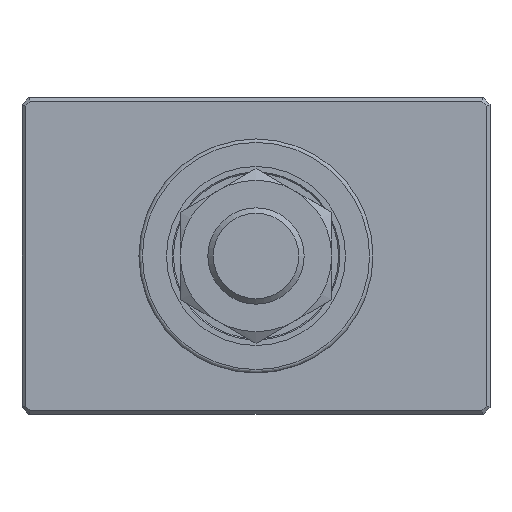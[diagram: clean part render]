
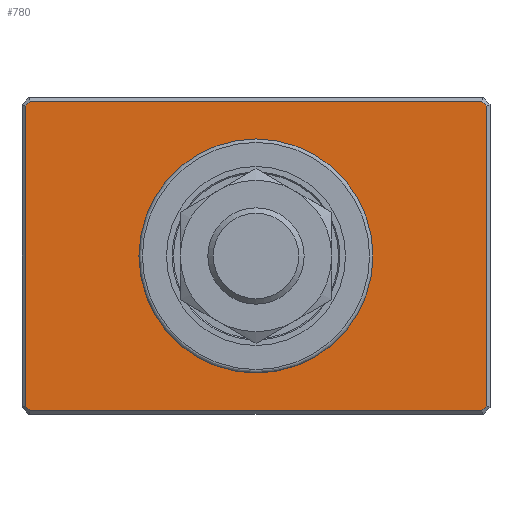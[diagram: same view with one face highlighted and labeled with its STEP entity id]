
A CAD part, front view. The second image highlights one B-rep face of the part: STEP entity #780.
In plain terms, the highlighted planar face has unit normal (0, -1, 0).
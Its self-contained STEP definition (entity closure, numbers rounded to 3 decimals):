
#532=CARTESIAN_POINT('',(-33.5,-21.,-21.793));
#533=VERTEX_POINT('',#532);
#540=CARTESIAN_POINT('',(-33.5,-21.,21.793));
#541=VERTEX_POINT('',#540);
#542=CARTESIAN_POINT('',(-33.5,-21.,-21.793));
#543=DIRECTION('',(0.0,0.0,1.0));
#544=VECTOR('',#543,43.586);
#545=LINE('',#542,#544);
#546=EDGE_CURVE('',#533,#541,#545,.T.);
#562=CARTESIAN_POINT('',(-32.793,-21.,-22.5));
#563=VERTEX_POINT('',#562);
#564=CARTESIAN_POINT('',(-32.793,-21.,-22.5));
#565=DIRECTION('',(-0.707,0.0,0.707));
#566=VECTOR('',#565,1.);
#567=LINE('',#564,#566);
#568=EDGE_CURVE('',#563,#533,#567,.T.);
#593=CARTESIAN_POINT('',(32.793,-21.,-22.5));
#594=VERTEX_POINT('',#593);
#595=CARTESIAN_POINT('',(32.793,-21.,-22.5));
#596=DIRECTION('',(-1.0,0.0,0.0));
#597=VECTOR('',#596,65.586);
#598=LINE('',#595,#597);
#599=EDGE_CURVE('',#594,#563,#598,.T.);
#624=CARTESIAN_POINT('',(32.793,-21.,22.5));
#625=VERTEX_POINT('',#624);
#626=CARTESIAN_POINT('',(33.5,-21.,21.793));
#627=VERTEX_POINT('',#626);
#628=CARTESIAN_POINT('',(32.793,-21.,22.5));
#629=DIRECTION('',(0.707,0.0,-0.707));
#630=VECTOR('',#629,1.);
#631=LINE('',#628,#630);
#632=EDGE_CURVE('',#625,#627,#631,.T.);
#657=CARTESIAN_POINT('',(33.5,-21.,-21.793));
#658=VERTEX_POINT('',#657);
#659=CARTESIAN_POINT('',(33.5,-21.,21.793));
#660=DIRECTION('',(0.0,0.0,-1.0));
#661=VECTOR('',#660,43.586);
#662=LINE('',#659,#661);
#663=EDGE_CURVE('',#627,#658,#662,.T.);
#679=CARTESIAN_POINT('',(33.5,-21.,-21.793));
#680=DIRECTION('',(-0.707,0.0,-0.707));
#681=VECTOR('',#680,1.);
#682=LINE('',#679,#681);
#683=EDGE_CURVE('',#658,#594,#682,.T.);
#701=CARTESIAN_POINT('',(-32.793,-21.,22.5));
#702=VERTEX_POINT('',#701);
#703=CARTESIAN_POINT('',(-32.793,-21.,22.5));
#704=DIRECTION('',(1.0,0.0,0.0));
#705=VECTOR('',#704,65.586);
#706=LINE('',#703,#705);
#707=EDGE_CURVE('',#702,#625,#706,.T.);
#725=CARTESIAN_POINT('',(-33.5,-21.,21.793));
#726=DIRECTION('',(0.707,0.0,0.707));
#727=VECTOR('',#726,1.);
#728=LINE('',#725,#727);
#729=EDGE_CURVE('',#541,#702,#728,.T.);
#754=CARTESIAN_POINT('',(0.0,-21.,-23.));
#755=DIRECTION('',(0.0,-1.0,0.0));
#756=DIRECTION('',(0.0,0.0,-1.0));
#757=AXIS2_PLACEMENT_3D('',#754,#755,#756);
#758=PLANE('',#757);
#759=ORIENTED_EDGE('',*,*,#632,.F.);
#760=ORIENTED_EDGE('',*,*,#707,.F.);
#761=ORIENTED_EDGE('',*,*,#729,.F.);
#762=ORIENTED_EDGE('',*,*,#546,.F.);
#763=ORIENTED_EDGE('',*,*,#568,.F.);
#764=ORIENTED_EDGE('',*,*,#599,.F.);
#765=ORIENTED_EDGE('',*,*,#683,.F.);
#766=ORIENTED_EDGE('',*,*,#663,.F.);
#767=EDGE_LOOP('',(#759,#760,#761,#762,#763,#764,#765,#766));
#768=FACE_OUTER_BOUND('',#767,.T.);
#769=CARTESIAN_POINT('',(0.0,-21.,17.0));
#770=VERTEX_POINT('',#769);
#771=CARTESIAN_POINT('',(0.0,-21.,0.0));
#772=DIRECTION('',(0.0,1.0,0.0));
#773=DIRECTION('',(0.0,0.0,1.0));
#774=AXIS2_PLACEMENT_3D('',#771,#772,#773);
#775=CIRCLE('',#774,17.0);
#776=EDGE_CURVE('',#770,#770,#775,.T.);
#777=ORIENTED_EDGE('',*,*,#776,.T.);
#778=EDGE_LOOP('',(#777));
#779=FACE_BOUND('',#778,.T.);
#780=ADVANCED_FACE('',(#768,#779),#758,.T.);
